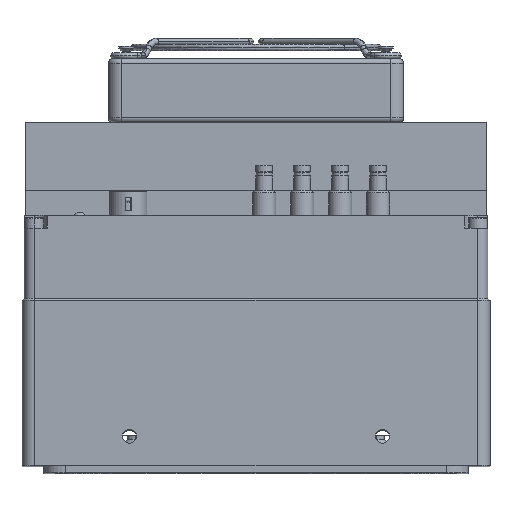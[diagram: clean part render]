
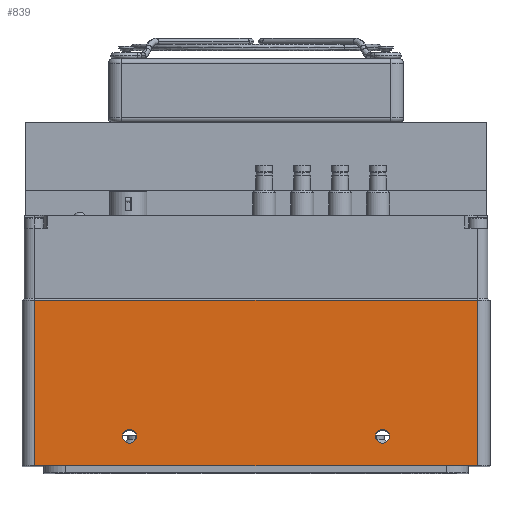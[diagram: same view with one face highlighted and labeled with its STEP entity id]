
A CAD part, top view. The second image highlights one B-rep face of the part: STEP entity #839.
In plain terms, the highlighted planar face has unit normal (0, 0, 1).
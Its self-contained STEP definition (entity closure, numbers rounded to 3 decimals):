
#178 = VERTEX_POINT ( 'NONE', #21099 ) ;
#839 = ADVANCED_FACE ( 'NONE', ( #19417, #32595, #17336 ), #9215, .F. ) ;
#1016 = ORIENTED_EDGE ( 'NONE', *, *, #25708, .T. ) ;
#1498 = VERTEX_POINT ( 'NONE', #33851 ) ;
#2068 = CARTESIAN_POINT ( 'NONE',  ( 26.866, -8.028, 84.619 ) ) ;
#3723 = CARTESIAN_POINT ( 'NONE',  ( -78.134, -44.198, 84.619 ) ) ;
#4282 = ORIENTED_EDGE ( 'NONE', *, *, #11023, .F. ) ;
#5323 = VECTOR ( 'NONE', #26862, 1000. ) ;
#5331 = LINE ( 'NONE', #14919, #20563 ) ;
#5379 = CIRCLE ( 'NONE', #6148, 1.65 ) ;
#5431 = CARTESIAN_POINT ( 'NONE',  ( -78.134, -8.028, 84.619 ) ) ;
#6006 = ORIENTED_EDGE ( 'NONE', *, *, #11082, .T. ) ;
#6148 = AXIS2_PLACEMENT_3D ( 'NONE', #33045, #25324, #33411 ) ;
#6622 = VERTEX_POINT ( 'NONE', #29959 ) ;
#6834 = LINE ( 'NONE', #3723, #20428 ) ;
#6961 = VERTEX_POINT ( 'NONE', #31998 ) ;
#8720 = EDGE_LOOP ( 'NONE', ( #6006, #1016, #18305, #16262 ) ) ;
#9203 = CARTESIAN_POINT ( 'NONE',  ( 44.366, -47.248, 84.619 ) ) ;
#9215 = PLANE ( 'NONE',  #22693 ) ;
#9509 = VERTEX_POINT ( 'NONE', #2068 ) ;
#10814 = AXIS2_PLACEMENT_3D ( 'NONE', #19878, #16873, #17201 ) ;
#11023 = EDGE_CURVE ( 'NONE', #22837, #1498, #23334, .T. ) ;
#11082 = EDGE_CURVE ( 'NONE', #26953, #23372, #6834, .T. ) ;
#11851 = ORIENTED_EDGE ( 'NONE', *, *, #17029, .F. ) ;
#13376 = DIRECTION ( 'NONE',  ( 0., 0., 1. ) ) ;
#13568 = EDGE_LOOP ( 'NONE', ( #11851, #4282 ) ) ;
#13859 = DIRECTION ( 'NONE',  ( 0., -1., 0. ) ) ;
#14333 = AXIS2_PLACEMENT_3D ( 'NONE', #29498, #22010, #21681 ) ;
#14596 = CARTESIAN_POINT ( 'NONE',  ( 44.366, -44.198, 84.619 ) ) ;
#14713 = DIRECTION ( 'NONE',  ( 1., 0., 0. ) ) ;
#14796 = DIRECTION ( 'NONE',  ( 0., 1., 0. ) ) ;
#14919 = CARTESIAN_POINT ( 'NONE',  ( 26.866, -44.198, 84.619 ) ) ;
#15746 = AXIS2_PLACEMENT_3D ( 'NONE', #26477, #13376, #31889 ) ;
#16036 = LINE ( 'NONE', #18686, #5323 ) ;
#16262 = ORIENTED_EDGE ( 'NONE', *, *, #18121, .T. ) ;
#16873 = DIRECTION ( 'NONE',  ( 0., 0., 1. ) ) ;
#17029 = EDGE_CURVE ( 'NONE', #1498, #22837, #5379, .T. ) ;
#17201 = DIRECTION ( 'NONE',  ( -1., 0., 0. ) ) ;
#17336 = FACE_OUTER_BOUND ( 'NONE', #8720, .T. ) ;
#17808 = EDGE_CURVE ( 'NONE', #178, #6961, #21806, .T. ) ;
#18121 = EDGE_CURVE ( 'NONE', #9509, #26953, #16036, .T. ) ;
#18305 = ORIENTED_EDGE ( 'NONE', *, *, #31629, .T. ) ;
#18686 = CARTESIAN_POINT ( 'NONE',  ( -92.634, -8.028, 84.619 ) ) ;
#19139 = CARTESIAN_POINT ( 'NONE',  ( 6.016, -40.248, 84.619 ) ) ;
#19417 = FACE_BOUND ( 'NONE', #22619, .T. ) ;
#19551 = DIRECTION ( 'NONE',  ( 1., 0., 0. ) ) ;
#19759 = CIRCLE ( 'NONE', #15746, 1.65 ) ;
#19878 = CARTESIAN_POINT ( 'NONE',  ( -55.634, -40.248, 84.619 ) ) ;
#20428 = VECTOR ( 'NONE', #13859, 1000. ) ;
#20563 = VECTOR ( 'NONE', #14796, 1000. ) ;
#21099 = CARTESIAN_POINT ( 'NONE',  ( -57.284, -40.248, 84.619 ) ) ;
#21681 = DIRECTION ( 'NONE',  ( -1., 0., 0. ) ) ;
#21806 = CIRCLE ( 'NONE', #10814, 1.65 ) ;
#22010 = DIRECTION ( 'NONE',  ( 0., 0., 1. ) ) ;
#22619 = EDGE_LOOP ( 'NONE', ( #24504, #26909 ) ) ;
#22693 = AXIS2_PLACEMENT_3D ( 'NONE', #14596, #30488, #14713 ) ;
#22837 = VERTEX_POINT ( 'NONE', #19139 ) ;
#22864 = VECTOR ( 'NONE', #19551, 1000. ) ;
#23334 = CIRCLE ( 'NONE', #14333, 1.65 ) ;
#23372 = VERTEX_POINT ( 'NONE', #29675 ) ;
#24504 = ORIENTED_EDGE ( 'NONE', *, *, #17808, .F. ) ;
#25324 = DIRECTION ( 'NONE',  ( 0., 0., 1. ) ) ;
#25708 = EDGE_CURVE ( 'NONE', #23372, #6622, #30263, .T. ) ;
#26477 = CARTESIAN_POINT ( 'NONE',  ( -55.634, -40.248, 84.619 ) ) ;
#26862 = DIRECTION ( 'NONE',  ( -1., 0., 0. ) ) ;
#26909 = ORIENTED_EDGE ( 'NONE', *, *, #30444, .F. ) ;
#26953 = VERTEX_POINT ( 'NONE', #5431 ) ;
#29498 = CARTESIAN_POINT ( 'NONE',  ( 4.366, -40.248, 84.619 ) ) ;
#29675 = CARTESIAN_POINT ( 'NONE',  ( -78.134, -47.248, 84.619 ) ) ;
#29959 = CARTESIAN_POINT ( 'NONE',  ( 26.866, -47.248, 84.619 ) ) ;
#30263 = LINE ( 'NONE', #9203, #22864 ) ;
#30444 = EDGE_CURVE ( 'NONE', #6961, #178, #19759, .T. ) ;
#30488 = DIRECTION ( 'NONE',  ( 0., 0., -1. ) ) ;
#31629 = EDGE_CURVE ( 'NONE', #6622, #9509, #5331, .T. ) ;
#31889 = DIRECTION ( 'NONE',  ( -1., 0., 0. ) ) ;
#31998 = CARTESIAN_POINT ( 'NONE',  ( -53.984, -40.248, 84.619 ) ) ;
#32595 = FACE_BOUND ( 'NONE', #13568, .T. ) ;
#33045 = CARTESIAN_POINT ( 'NONE',  ( 4.366, -40.248, 84.619 ) ) ;
#33411 = DIRECTION ( 'NONE',  ( -1., 0., 0. ) ) ;
#33851 = CARTESIAN_POINT ( 'NONE',  ( 2.716, -40.248, 84.619 ) ) ;
